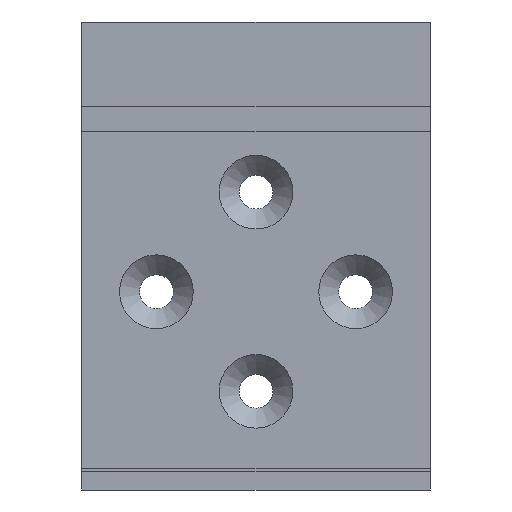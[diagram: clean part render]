
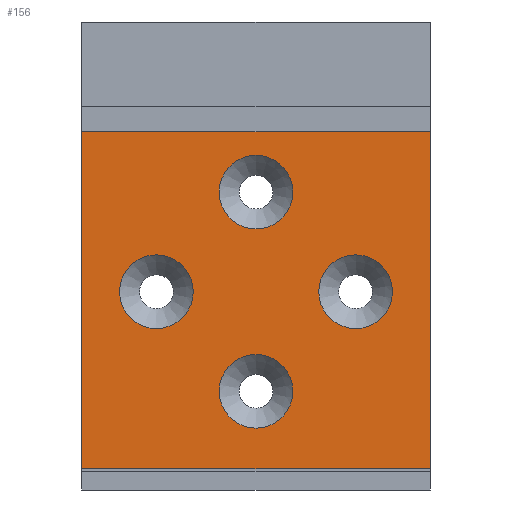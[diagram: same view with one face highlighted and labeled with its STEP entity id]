
A CAD part, front view. The second image highlights one B-rep face of the part: STEP entity #156.
In plain terms, the highlighted planar face has unit normal (0, -1, 0).
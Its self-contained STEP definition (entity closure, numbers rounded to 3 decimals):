
#111=FACE_BOUND('',#210,.T.);
#112=FACE_BOUND('',#211,.T.);
#113=FACE_BOUND('',#212,.T.);
#114=FACE_BOUND('',#213,.T.);
#115=FACE_BOUND('',#214,.T.);
#137=CIRCLE('',#537,3.7);
#138=CIRCLE('',#538,3.7);
#139=CIRCLE('',#539,3.7);
#140=CIRCLE('',#540,3.7);
#156=ADVANCED_FACE('',(#111,#112,#113,#114,#115),#180,.F.);
#180=PLANE('',#541);
#210=EDGE_LOOP('',(#271));
#211=EDGE_LOOP('',(#272));
#212=EDGE_LOOP('',(#273));
#213=EDGE_LOOP('',(#274));
#214=EDGE_LOOP('',(#275,#276,#277,#278));
#271=ORIENTED_EDGE('',*,*,#413,.T.);
#272=ORIENTED_EDGE('',*,*,#414,.T.);
#273=ORIENTED_EDGE('',*,*,#415,.T.);
#274=ORIENTED_EDGE('',*,*,#416,.T.);
#275=ORIENTED_EDGE('',*,*,#417,.T.);
#276=ORIENTED_EDGE('',*,*,#418,.F.);
#277=ORIENTED_EDGE('',*,*,#419,.F.);
#278=ORIENTED_EDGE('',*,*,#411,.T.);
#365=VERTEX_POINT('',#723);
#366=VERTEX_POINT('',#725);
#367=VERTEX_POINT('',#729);
#368=VERTEX_POINT('',#731);
#369=VERTEX_POINT('',#733);
#370=VERTEX_POINT('',#735);
#371=VERTEX_POINT('',#737);
#372=VERTEX_POINT('',#739);
#411=EDGE_CURVE('',#366,#365,#465,.T.);
#413=EDGE_CURVE('',#367,#367,#137,.T.);
#414=EDGE_CURVE('',#368,#368,#138,.T.);
#415=EDGE_CURVE('',#369,#369,#139,.T.);
#416=EDGE_CURVE('',#370,#370,#140,.T.);
#417=EDGE_CURVE('',#365,#371,#467,.T.);
#418=EDGE_CURVE('',#372,#371,#468,.T.);
#419=EDGE_CURVE('',#366,#372,#469,.T.);
#465=LINE('',#724,#507);
#467=LINE('',#736,#509);
#468=LINE('',#738,#510);
#469=LINE('',#740,#511);
#507=VECTOR('',#600,1.);
#509=VECTOR('',#612,1.);
#510=VECTOR('',#613,1.);
#511=VECTOR('',#614,1.);
#537=AXIS2_PLACEMENT_3D('',#728,#604,#605);
#538=AXIS2_PLACEMENT_3D('',#730,#606,#607);
#539=AXIS2_PLACEMENT_3D('',#732,#608,#609);
#540=AXIS2_PLACEMENT_3D('',#734,#610,#611);
#541=AXIS2_PLACEMENT_3D('',#741,#615,#616);
#600=DIRECTION('',(-1.,0.,0.));
#604=DIRECTION('',(0.,1.,0.));
#605=DIRECTION('',(0.,0.,1.));
#606=DIRECTION('',(0.,1.,0.));
#607=DIRECTION('',(0.,0.,1.));
#608=DIRECTION('',(0.,1.,0.));
#609=DIRECTION('',(0.,0.,1.));
#610=DIRECTION('',(0.,1.,0.));
#611=DIRECTION('',(0.,0.,1.));
#612=DIRECTION('',(0.,0.,-1.));
#613=DIRECTION('',(-1.,0.,0.));
#614=DIRECTION('',(0.,0.,-1.));
#615=DIRECTION('',(0.,1.,0.));
#616=DIRECTION('',(1.,0.,0.));
#723=CARTESIAN_POINT('',(-222.088,126.042,403.438));
#724=CARTESIAN_POINT('',(-187.088,126.042,403.438));
#725=CARTESIAN_POINT('',(-187.088,126.042,403.438));
#728=CARTESIAN_POINT('',(-204.588,126.042,369.969));
#729=CARTESIAN_POINT('',(-204.588,126.042,373.669));
#730=CARTESIAN_POINT('',(-214.588,126.042,379.969));
#731=CARTESIAN_POINT('',(-214.588,126.042,383.669));
#732=CARTESIAN_POINT('',(-194.588,126.042,379.969));
#733=CARTESIAN_POINT('',(-194.588,126.042,383.669));
#734=CARTESIAN_POINT('',(-204.588,126.042,389.969));
#735=CARTESIAN_POINT('',(-204.588,126.042,393.669));
#736=CARTESIAN_POINT('',(-222.088,126.042,403.438));
#737=CARTESIAN_POINT('',(-222.088,126.042,361.487));
#738=CARTESIAN_POINT('',(-187.088,126.042,361.487));
#739=CARTESIAN_POINT('',(-187.088,126.042,361.487));
#740=CARTESIAN_POINT('',(-187.088,126.042,403.438));
#741=CARTESIAN_POINT('',(-187.088,126.042,403.438));
